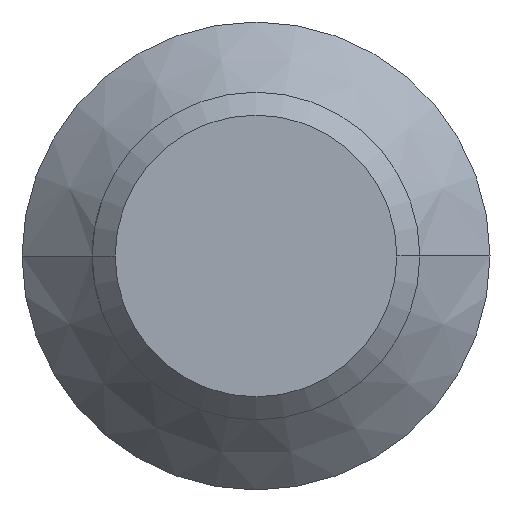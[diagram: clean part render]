
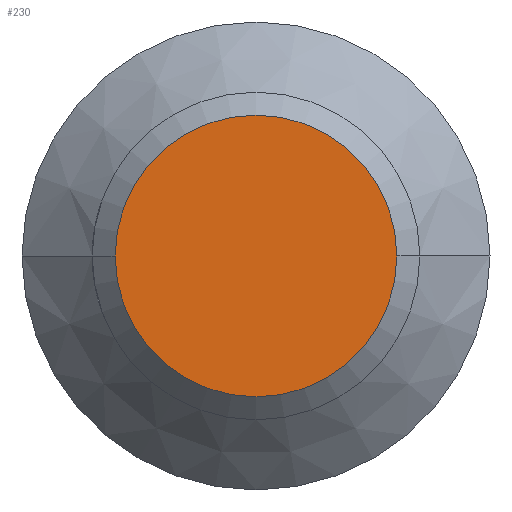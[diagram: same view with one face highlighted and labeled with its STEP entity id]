
A CAD part, left-side view. The second image highlights one B-rep face of the part: STEP entity #230.
In plain terms, the highlighted planar face has unit normal (-1, 0, 0).
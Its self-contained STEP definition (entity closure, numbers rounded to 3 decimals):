
#21 = VERTEX_POINT ( 'NONE', #340 ) ;
#60 = CIRCLE ( 'NONE', #61, 6.02 ) ;
#61 = AXIS2_PLACEMENT_3D ( 'NONE', #62, #63, #64 ) ;
#62 = CARTESIAN_POINT ( 'NONE',  ( -62., 0., 0. ) ) ;
#63 = DIRECTION ( 'NONE',  ( -1., 0., 0. ) ) ;
#64 = DIRECTION ( 'NONE',  ( 0., -1., 0. ) ) ;
#88 = ORIENTED_EDGE ( 'NONE', *, *, #309, .T. ) ;
#184 = VERTEX_POINT ( 'NONE', #476 ) ;
#204 = EDGE_CURVE ( 'NONE', #184, #21, #649, .T. ) ;
#214 = EDGE_LOOP ( 'NONE', ( #88, #272 ) ) ;
#230 = ADVANCED_FACE ( 'NONE', ( #470 ), #471, .T. ) ;
#272 = ORIENTED_EDGE ( 'NONE', *, *, #204, .T. ) ;
#309 = EDGE_CURVE ( 'NONE', #21, #184, #60, .T. ) ;
#340 = CARTESIAN_POINT ( 'NONE',  ( -62., 6.02, 0. ) ) ;
#470 = FACE_OUTER_BOUND ( 'NONE', #214, .T. ) ;
#471 = PLANE ( 'NONE',  #472 ) ;
#472 = AXIS2_PLACEMENT_3D ( 'NONE', #473, #474, #475 ) ;
#473 = CARTESIAN_POINT ( 'NONE',  ( -62., 0., 0. ) ) ;
#474 = DIRECTION ( 'NONE',  ( -1., 0., 0. ) ) ;
#475 = DIRECTION ( 'NONE',  ( 0., -1., 0. ) ) ;
#476 = CARTESIAN_POINT ( 'NONE',  ( -62., -6.02, 0. ) ) ;
#649 = CIRCLE ( 'NONE', #650, 6.02 ) ;
#650 = AXIS2_PLACEMENT_3D ( 'NONE', #651, #652, #653 ) ;
#651 = CARTESIAN_POINT ( 'NONE',  ( -62., 0., 0. ) ) ;
#652 = DIRECTION ( 'NONE',  ( -1., 0., 0. ) ) ;
#653 = DIRECTION ( 'NONE',  ( 0., -1., 0. ) ) ;
